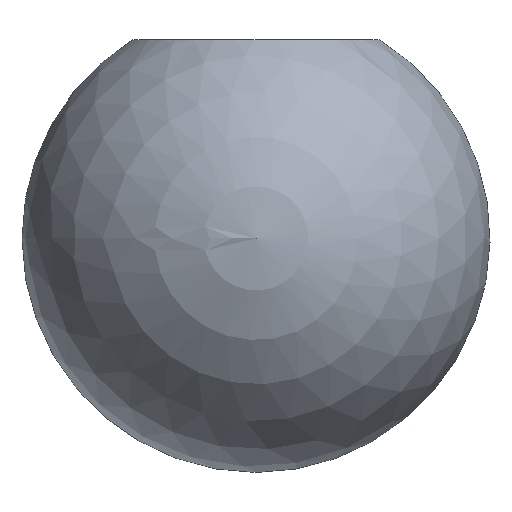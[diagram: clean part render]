
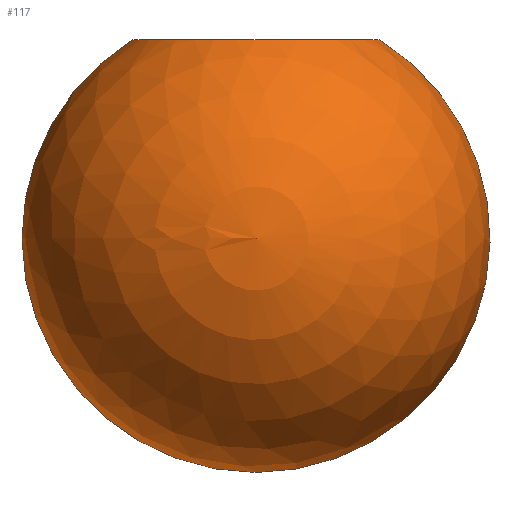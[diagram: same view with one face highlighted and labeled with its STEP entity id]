
A CAD part, left-side view. The second image highlights one B-rep face of the part: STEP entity #117.
In plain terms, the highlighted spherical face has radius 20 mm.
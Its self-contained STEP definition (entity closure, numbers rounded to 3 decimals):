
#48 = AXIS2_PLACEMENT_3D ( 'NONE', #127, #152, #124 ) ;
#63 = DIRECTION ( 'NONE',  ( 0., 1., 0. ) ) ;
#117 = ADVANCED_FACE ( 'NONE', ( #409 ), #321, .T. ) ;
#124 = DIRECTION ( 'NONE',  ( 1., 0., 0. ) ) ;
#127 = CARTESIAN_POINT ( 'NONE',  ( 0., 0., 0. ) ) ;
#131 = ORIENTED_EDGE ( 'NONE', *, *, #230, .F. ) ;
#141 = CARTESIAN_POINT ( 'NONE',  ( 0., 10.536, 0. ) ) ;
#152 = DIRECTION ( 'NONE',  ( 0., 0., 1. ) ) ;
#172 = VERTEX_POINT ( 'NONE', #548 ) ;
#175 = EDGE_LOOP ( 'NONE', ( #350, #255, #131 ) ) ;
#179 = CARTESIAN_POINT ( 'NONE',  ( 0., 0., -17. ) ) ;
#193 = CARTESIAN_POINT ( 'NONE',  ( 0., -10.536, 0. ) ) ;
#207 = CIRCLE ( 'NONE', #48, 10.536 ) ;
#217 = AXIS2_PLACEMENT_3D ( 'NONE', #493, #280, #63 ) ;
#222 = CIRCLE ( 'NONE', #547, 20. ) ;
#230 = EDGE_CURVE ( 'NONE', #308, #419, #207, .T. ) ;
#255 = ORIENTED_EDGE ( 'NONE', *, *, #463, .T. ) ;
#280 = DIRECTION ( 'NONE',  ( -1., 0., 0. ) ) ;
#308 = VERTEX_POINT ( 'NONE', #141 ) ;
#319 = EDGE_CURVE ( 'NONE', #172, #308, #222, .T. ) ;
#321 = SPHERICAL_SURFACE ( 'NONE', #217, 20. ) ;
#341 = DIRECTION ( 'NONE',  ( -1., 0., 0. ) ) ;
#350 = ORIENTED_EDGE ( 'NONE', *, *, #319, .F. ) ;
#362 = DIRECTION ( 'NONE',  ( 0., 0., -1. ) ) ;
#389 = CARTESIAN_POINT ( 'NONE',  ( 0., 0., -17. ) ) ;
#409 = FACE_OUTER_BOUND ( 'NONE', #175, .T. ) ;
#419 = VERTEX_POINT ( 'NONE', #193 ) ;
#439 = DIRECTION ( 'NONE',  ( 1., 0., 0. ) ) ;
#463 = EDGE_CURVE ( 'NONE', #172, #419, #537, .T. ) ;
#472 = AXIS2_PLACEMENT_3D ( 'NONE', #389, #341, #511 ) ;
#493 = CARTESIAN_POINT ( 'NONE',  ( 0., 0., -17. ) ) ;
#511 = DIRECTION ( 'NONE',  ( 0., -1., 0. ) ) ;
#537 = CIRCLE ( 'NONE', #472, 20. ) ;
#547 = AXIS2_PLACEMENT_3D ( 'NONE', #179, #439, #362 ) ;
#548 = CARTESIAN_POINT ( 'NONE',  ( 0., 0., -37. ) ) ;
